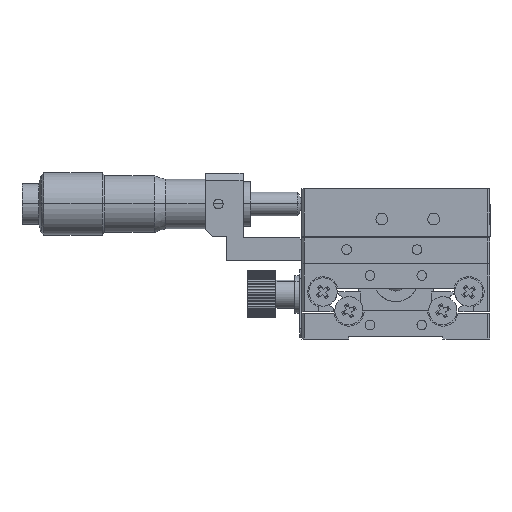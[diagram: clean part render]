
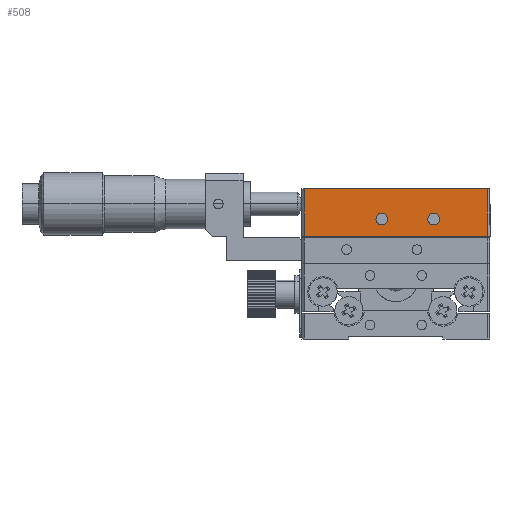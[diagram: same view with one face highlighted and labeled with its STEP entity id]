
A CAD part, left-side view. The second image highlights one B-rep face of the part: STEP entity #508.
In plain terms, the highlighted planar face has unit normal (-1, 0, 0) as drawn and (0, -1, 0) by its records, which use the part's own axes.
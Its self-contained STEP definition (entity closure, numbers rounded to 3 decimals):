
#6 = DIRECTION ( 'NONE',  ( 0., -1., 0. ) ) ;
#96 = VERTEX_POINT ( 'NONE', #15786 ) ;
#308 = VERTEX_POINT ( 'NONE', #11186 ) ;
#428 = CARTESIAN_POINT ( 'NONE',  ( 20., -20., 7.44 ) ) ;
#508 = ADVANCED_FACE ( 'NONE', ( #7315, #11073, #9190 ), #8346, .T. ) ;
#1357 = CARTESIAN_POINT ( 'NONE',  ( 20., -20., 0. ) ) ;
#1930 = CARTESIAN_POINT ( 'NONE',  ( -19.5, -20., 7.44 ) ) ;
#2256 = DIRECTION ( 'NONE',  ( 0., 0., -1. ) ) ;
#2308 = DIRECTION ( 'NONE',  ( 0., -1., 0. ) ) ;
#3194 = EDGE_CURVE ( 'NONE', #6266, #11363, #6130, .T. ) ;
#3502 = ORIENTED_EDGE ( 'NONE', *, *, #3194, .F. ) ;
#3595 = EDGE_LOOP ( 'NONE', ( #14846, #3502 ) ) ;
#3788 = LINE ( 'NONE', #16547, #7951 ) ;
#4079 = VERTEX_POINT ( 'NONE', #10340 ) ;
#4100 = CARTESIAN_POINT ( 'NONE',  ( 20., -20., 10.2 ) ) ;
#4137 = CARTESIAN_POINT ( 'NONE',  ( -3., -20., 3.7 ) ) ;
#4307 = DIRECTION ( 'NONE',  ( 0., 0., -1. ) ) ;
#5117 = CARTESIAN_POINT ( 'NONE',  ( -3., -20., 4.95 ) ) ;
#5341 = EDGE_CURVE ( 'NONE', #8233, #9247, #14475, .T. ) ;
#5423 = DIRECTION ( 'NONE',  ( 0., 0., -1. ) ) ;
#6124 = CIRCLE ( 'NONE', #12306, 1.25 ) ;
#6130 = CIRCLE ( 'NONE', #8037, 1.25 ) ;
#6155 = CARTESIAN_POINT ( 'NONE',  ( -3., -20., 2.45 ) ) ;
#6241 = DIRECTION ( 'NONE',  ( 0., 0., -1. ) ) ;
#6266 = VERTEX_POINT ( 'NONE', #16618 ) ;
#6646 = EDGE_LOOP ( 'NONE', ( #16987, #8725 ) ) ;
#7315 = FACE_BOUND ( 'NONE', #6646, .T. ) ;
#7455 = DIRECTION ( 'NONE',  ( 1., 0., 0. ) ) ;
#7951 = VECTOR ( 'NONE', #11108, 1000. ) ;
#8030 = VECTOR ( 'NONE', #16221, 1000. ) ;
#8037 = AXIS2_PLACEMENT_3D ( 'NONE', #13174, #2308, #2256 ) ;
#8041 = CARTESIAN_POINT ( 'NONE',  ( 8., -20., 3.7 ) ) ;
#8233 = VERTEX_POINT ( 'NONE', #5117 ) ;
#8313 = CARTESIAN_POINT ( 'NONE',  ( 8., -20., 2.45 ) ) ;
#8321 = AXIS2_PLACEMENT_3D ( 'NONE', #4137, #10821, #4307 ) ;
#8346 = PLANE ( 'NONE',  #9161 ) ;
#8725 = ORIENTED_EDGE ( 'NONE', *, *, #5341, .F. ) ;
#8999 = EDGE_CURVE ( 'NONE', #4079, #308, #9707, .T. ) ;
#9161 = AXIS2_PLACEMENT_3D ( 'NONE', #428, #10103, #7455 ) ;
#9190 = FACE_OUTER_BOUND ( 'NONE', #12551, .T. ) ;
#9246 = ORIENTED_EDGE ( 'NONE', *, *, #8999, .F. ) ;
#9247 = VERTEX_POINT ( 'NONE', #6155 ) ;
#9707 = LINE ( 'NONE', #4100, #8030 ) ;
#9744 = EDGE_CURVE ( 'NONE', #11363, #6266, #6124, .T. ) ;
#10103 = DIRECTION ( 'NONE',  ( 0., -1., 0. ) ) ;
#10340 = CARTESIAN_POINT ( 'NONE',  ( -19.5, -20., 10.2 ) ) ;
#10440 = DIRECTION ( 'NONE',  ( 0., 0., -1. ) ) ;
#10447 = CARTESIAN_POINT ( 'NONE',  ( 19.5, -20., 0. ) ) ;
#10478 = EDGE_CURVE ( 'NONE', #15207, #96, #12616, .T. ) ;
#10821 = DIRECTION ( 'NONE',  ( 0., -1., 0. ) ) ;
#10861 = ORIENTED_EDGE ( 'NONE', *, *, #16690, .T. ) ;
#11073 = FACE_BOUND ( 'NONE', #3595, .T. ) ;
#11108 = DIRECTION ( 'NONE',  ( 0., 0., 1. ) ) ;
#11186 = CARTESIAN_POINT ( 'NONE',  ( 19.5, -20., 10.2 ) ) ;
#11363 = VERTEX_POINT ( 'NONE', #8313 ) ;
#11551 = EDGE_CURVE ( 'NONE', #4079, #96, #16812, .T. ) ;
#11600 = CIRCLE ( 'NONE', #8321, 1.25 ) ;
#12032 = CARTESIAN_POINT ( 'NONE',  ( -3., -20., 3.7 ) ) ;
#12306 = AXIS2_PLACEMENT_3D ( 'NONE', #8041, #16177, #5423 ) ;
#12551 = EDGE_LOOP ( 'NONE', ( #17283, #10861, #9246, #16220 ) ) ;
#12616 = LINE ( 'NONE', #1357, #12851 ) ;
#12851 = VECTOR ( 'NONE', #17279, 1000. ) ;
#13174 = CARTESIAN_POINT ( 'NONE',  ( 8., -20., 3.7 ) ) ;
#14475 = CIRCLE ( 'NONE', #17241, 1.25 ) ;
#14846 = ORIENTED_EDGE ( 'NONE', *, *, #9744, .F. ) ;
#15207 = VERTEX_POINT ( 'NONE', #10447 ) ;
#15786 = CARTESIAN_POINT ( 'NONE',  ( -19.5, -20., 0. ) ) ;
#16177 = DIRECTION ( 'NONE',  ( 0., -1., 0. ) ) ;
#16220 = ORIENTED_EDGE ( 'NONE', *, *, #11551, .T. ) ;
#16221 = DIRECTION ( 'NONE',  ( 1., 0., 0. ) ) ;
#16384 = VECTOR ( 'NONE', #6241, 1000. ) ;
#16547 = CARTESIAN_POINT ( 'NONE',  ( 19.5, -20., 7.44 ) ) ;
#16600 = EDGE_CURVE ( 'NONE', #9247, #8233, #11600, .T. ) ;
#16618 = CARTESIAN_POINT ( 'NONE',  ( 8., -20., 4.95 ) ) ;
#16690 = EDGE_CURVE ( 'NONE', #15207, #308, #3788, .T. ) ;
#16812 = LINE ( 'NONE', #1930, #16384 ) ;
#16987 = ORIENTED_EDGE ( 'NONE', *, *, #16600, .F. ) ;
#17241 = AXIS2_PLACEMENT_3D ( 'NONE', #12032, #6, #10440 ) ;
#17279 = DIRECTION ( 'NONE',  ( -1., 0., 0. ) ) ;
#17283 = ORIENTED_EDGE ( 'NONE', *, *, #10478, .F. ) ;
